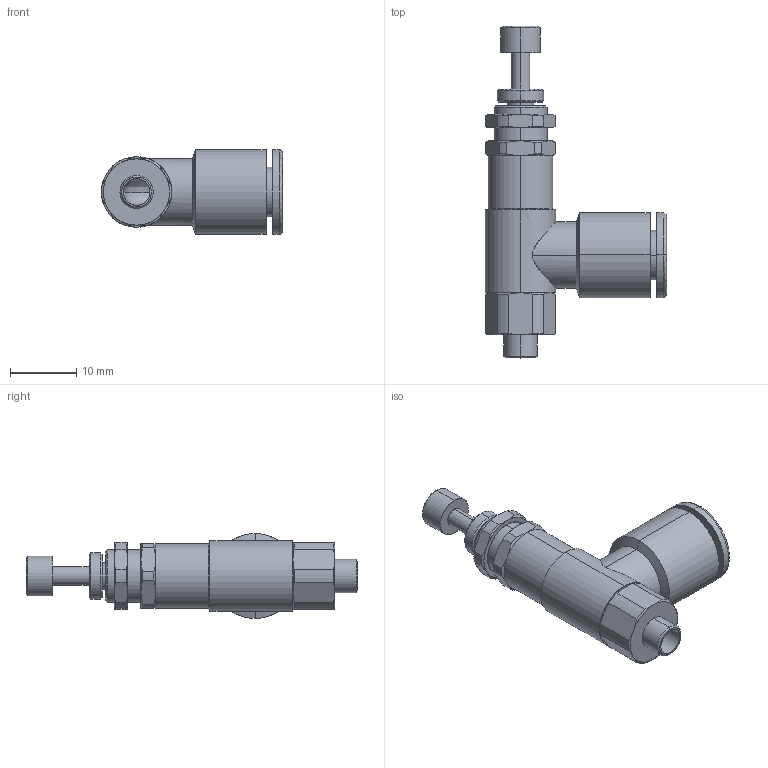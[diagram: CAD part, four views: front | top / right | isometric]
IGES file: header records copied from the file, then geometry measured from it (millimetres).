
Start section: SolidWorks IGES file using analytic representation for surfaces
Global section: file name: C:\Documents and Settings\CAD53\デスクトップ\ARJ1020F-M5-06\ARJ1020F-M5-06.IGS; native system: SolidWorks 2006 by SolidWorks Corporation; preprocessor: SolidWorks 2006 by SolidWorks Corporation; author: CAD53; date: 071212.091534; units: millimetre
Bounding box: 27.3 x 50 x 12.8 mm (x, y, z)
Surface area: 3158.3 mm2 (no closed solid volume)
Topology: 0 solids, 0 shells, 146 faces, 1804 edges, 1804 vertices
Faces by surface type: revolution 107, bspline 39
